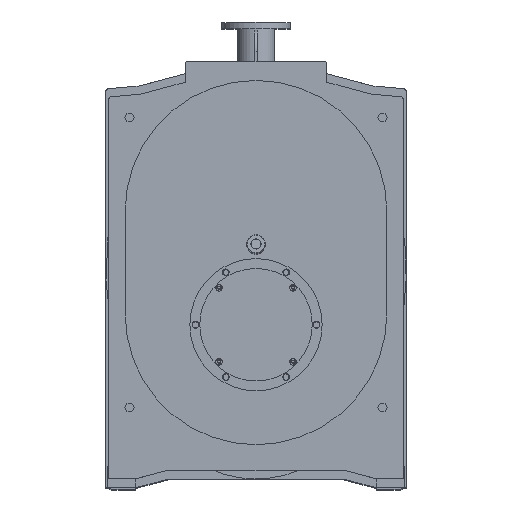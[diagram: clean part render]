
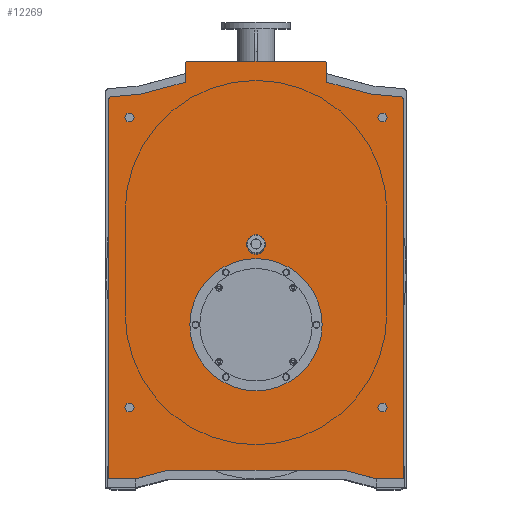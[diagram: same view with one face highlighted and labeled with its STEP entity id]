
A CAD part, top view. The second image highlights one B-rep face of the part: STEP entity #12269.
In plain terms, the highlighted planar face has unit normal (0, 0, 1).
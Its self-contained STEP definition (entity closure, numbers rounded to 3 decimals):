
#54 = EDGE_CURVE ( 'NONE', #11952, #89, #7925, .T. ) ;
#89 = VERTEX_POINT ( 'NONE', #1479 ) ;
#93 = ORIENTED_EDGE ( 'NONE', *, *, #4936, .T. ) ;
#162 = VECTOR ( 'NONE', #4175, 1000. ) ;
#182 = CARTESIAN_POINT ( 'NONE',  ( 252., 861.942, 1979. ) ) ;
#212 = CARTESIAN_POINT ( 'NONE',  ( 410.397, 819.499, 1979. ) ) ;
#223 = VECTOR ( 'NONE', #1518, 1000. ) ;
#512 = ORIENTED_EDGE ( 'NONE', *, *, #9629, .T. ) ;
#580 = VECTOR ( 'NONE', #12216, 1000. ) ;
#633 = ORIENTED_EDGE ( 'NONE', *, *, #6002, .T. ) ;
#776 = CARTESIAN_POINT ( 'NONE',  ( -513.636, 800.429, 1979. ) ) ;
#934 = VERTEX_POINT ( 'NONE', #3994 ) ;
#958 = EDGE_CURVE ( 'NONE', #6484, #6531, #10814, .T. ) ;
#1231 = CARTESIAN_POINT ( 'NONE',  ( 252., 861.942, 1979. ) ) ;
#1407 = VERTEX_POINT ( 'NONE', #9219 ) ;
#1422 = EDGE_CURVE ( 'NONE', #934, #5270, #3254, .T. ) ;
#1479 = CARTESIAN_POINT ( 'NONE',  ( -523.636, -548., 1979. ) ) ;
#1518 = DIRECTION ( 'NONE',  ( 0., -1., 0. ) ) ;
#1525 = VERTEX_POINT ( 'NONE', #4371 ) ;
#1734 = ORIENTED_EDGE ( 'NONE', *, *, #5578, .T. ) ;
#1794 = CARTESIAN_POINT ( 'NONE',  ( -514.508, 810.391, 1979. ) ) ;
#1895 = EDGE_CURVE ( 'NONE', #6464, #2004, #5608, .T. ) ;
#1975 = DIRECTION ( 'NONE',  ( -0.966, -0.259, 0. ) ) ;
#2004 = VERTEX_POINT ( 'NONE', #10166 ) ;
#2011 = CARTESIAN_POINT ( 'NONE',  ( 317.304, -518., 1979. ) ) ;
#2065 = ORIENTED_EDGE ( 'NONE', *, *, #6716, .T. ) ;
#2329 = CARTESIAN_POINT ( 'NONE',  ( -427.586, -548., 1979. ) ) ;
#2389 = ORIENTED_EDGE ( 'NONE', *, *, #12493, .T. ) ;
#2532 = LINE ( 'NONE', #7598, #7546 ) ;
#2533 = VERTEX_POINT ( 'NONE', #10067 ) ;
#2548 = CARTESIAN_POINT ( 'NONE',  ( -242., 927., 1979. ) ) ;
#2583 = EDGE_CURVE ( 'NONE', #12469, #7035, #12665, .T. ) ;
#2644 = VECTOR ( 'NONE', #11011, 1000. ) ;
#2851 = LINE ( 'NONE', #182, #162 ) ;
#3002 = ORIENTED_EDGE ( 'NONE', *, *, #6782, .T. ) ;
#3048 = CARTESIAN_POINT ( 'NONE',  ( 513.636, 800.429, 1979. ) ) ;
#3088 = DIRECTION ( 'NONE',  ( 0., 0., 1. ) ) ;
#3142 = EDGE_CURVE ( 'NONE', #9934, #934, #4763, .T. ) ;
#3253 = CARTESIAN_POINT ( 'NONE',  ( 523.636, 800.429, 1979. ) ) ;
#3254 = LINE ( 'NONE', #212, #580 ) ;
#3399 = ORIENTED_EDGE ( 'NONE', *, *, #9994, .T. ) ;
#3430 = DIRECTION ( 'NONE',  ( -1., 0., 0. ) ) ;
#3472 = ORIENTED_EDGE ( 'NONE', *, *, #54, .T. ) ;
#3642 = LINE ( 'NONE', #2329, #8647 ) ;
#3901 = ORIENTED_EDGE ( 'NONE', *, *, #12691, .T. ) ;
#3942 = DIRECTION ( 'NONE',  ( 0., 0., 1. ) ) ;
#3949 = CARTESIAN_POINT ( 'NONE',  ( 523.636, -548., 1979. ) ) ;
#3961 = CARTESIAN_POINT ( 'NONE',  ( -242., 937., 1979. ) ) ;
#3994 = CARTESIAN_POINT ( 'NONE',  ( 410.397, 819.499, 1979. ) ) ;
#4019 = DIRECTION ( 'NONE',  ( 0.965, 0.262, 0. ) ) ;
#4175 = DIRECTION ( 'NONE',  ( 0., 1., 0. ) ) ;
#4183 = LINE ( 'NONE', #3961, #11898 ) ;
#4260 = ORIENTED_EDGE ( 'NONE', *, *, #958, .T. ) ;
#4270 = DIRECTION ( 'NONE',  ( 1., 0., 0. ) ) ;
#4282 = CARTESIAN_POINT ( 'NONE',  ( 514.508, 810.391, 1979. ) ) ;
#4321 = AXIS2_PLACEMENT_3D ( 'NONE', #776, #11207, #4519 ) ;
#4371 = CARTESIAN_POINT ( 'NONE',  ( -427.586, -548., 1979. ) ) ;
#4450 = VECTOR ( 'NONE', #6242, 1000. ) ;
#4519 = DIRECTION ( 'NONE',  ( -1., 0., 0. ) ) ;
#4560 = CARTESIAN_POINT ( 'NONE',  ( 242., 937., 1979. ) ) ;
#4681 = ORIENTED_EDGE ( 'NONE', *, *, #3142, .T. ) ;
#4763 = LINE ( 'NONE', #8447, #4450 ) ;
#4914 = CARTESIAN_POINT ( 'NONE',  ( -410.397, 819.499, 1979. ) ) ;
#4936 = EDGE_CURVE ( 'NONE', #6531, #9934, #11669, .T. ) ;
#5136 = VECTOR ( 'NONE', #6793, 1000. ) ;
#5270 = VERTEX_POINT ( 'NONE', #1231 ) ;
#5425 = AXIS2_PLACEMENT_3D ( 'NONE', #11704, #5685, #12725 ) ;
#5533 = VERTEX_POINT ( 'NONE', #6683 ) ;
#5578 = EDGE_CURVE ( 'NONE', #89, #1525, #3642, .T. ) ;
#5608 = LINE ( 'NONE', #2011, #2644 ) ;
#5685 = DIRECTION ( 'NONE',  ( 0., 0., 1. ) ) ;
#5814 = EDGE_CURVE ( 'NONE', #1525, #2533, #2532, .T. ) ;
#5862 = CARTESIAN_POINT ( 'NONE',  ( -252., 861.942, 1979. ) ) ;
#5931 = CIRCLE ( 'NONE', #7159, 10. ) ;
#6002 = EDGE_CURVE ( 'NONE', #7035, #10326, #7390, .T. ) ;
#6126 = DIRECTION ( 'NONE',  ( 1., 0., 0. ) ) ;
#6242 = DIRECTION ( 'NONE',  ( -0.996, 0.087, 0. ) ) ;
#6326 = DIRECTION ( 'NONE',  ( 0., 0., 1. ) ) ;
#6427 = VECTOR ( 'NONE', #7803, 1000. ) ;
#6437 = CARTESIAN_POINT ( 'NONE',  ( -252., 861.942, 1979. ) ) ;
#6464 = VERTEX_POINT ( 'NONE', #7600 ) ;
#6484 = VERTEX_POINT ( 'NONE', #8604 ) ;
#6531 = VERTEX_POINT ( 'NONE', #3253 ) ;
#6577 = LINE ( 'NONE', #4914, #9254 ) ;
#6635 = PLANE ( 'NONE',  #4321 ) ;
#6683 = CARTESIAN_POINT ( 'NONE',  ( -410.397, 819.499, 1979. ) ) ;
#6716 = EDGE_CURVE ( 'NONE', #5533, #6987, #9111, .T. ) ;
#6782 = EDGE_CURVE ( 'NONE', #2533, #6464, #8797, .T. ) ;
#6793 = DIRECTION ( 'NONE',  ( 0., 1., 0. ) ) ;
#6987 = VERTEX_POINT ( 'NONE', #7579 ) ;
#7035 = VERTEX_POINT ( 'NONE', #8691 ) ;
#7079 = DIRECTION ( 'NONE',  ( 1., 0., 0. ) ) ;
#7111 = ORIENTED_EDGE ( 'NONE', *, *, #1422, .T. ) ;
#7159 = AXIS2_PLACEMENT_3D ( 'NONE', #11888, #6326, #7289 ) ;
#7252 = LINE ( 'NONE', #7815, #12297 ) ;
#7289 = DIRECTION ( 'NONE',  ( -1., 0., 0. ) ) ;
#7390 = LINE ( 'NONE', #5862, #10049 ) ;
#7496 = ORIENTED_EDGE ( 'NONE', *, *, #2583, .T. ) ;
#7546 = VECTOR ( 'NONE', #4019, 1000. ) ;
#7579 = CARTESIAN_POINT ( 'NONE',  ( -514.508, 810.391, 1979. ) ) ;
#7598 = CARTESIAN_POINT ( 'NONE',  ( -317.304, -518., 1979. ) ) ;
#7600 = CARTESIAN_POINT ( 'NONE',  ( 317.304, -518., 1979. ) ) ;
#7803 = DIRECTION ( 'NONE',  ( -0.996, -0.087, 0. ) ) ;
#7815 = CARTESIAN_POINT ( 'NONE',  ( 427.586, -548., 1979. ) ) ;
#7925 = LINE ( 'NONE', #8538, #223 ) ;
#7940 = EDGE_LOOP ( 'NONE', ( #1734, #9147, #3002, #9680, #12165, #4260, #93, #4681, #7111, #3901, #2389, #8448, #7496, #633, #512, #2065, #3399, #3472 ) ) ;
#8447 = CARTESIAN_POINT ( 'NONE',  ( 514.508, 810.391, 1979. ) ) ;
#8448 = ORIENTED_EDGE ( 'NONE', *, *, #10312, .T. ) ;
#8538 = CARTESIAN_POINT ( 'NONE',  ( -523.636, -548., 1979. ) ) ;
#8604 = CARTESIAN_POINT ( 'NONE',  ( 523.636, -548., 1979. ) ) ;
#8647 = VECTOR ( 'NONE', #9314, 1000. ) ;
#8691 = CARTESIAN_POINT ( 'NONE',  ( -252., 927., 1979. ) ) ;
#8797 = LINE ( 'NONE', #10123, #11155 ) ;
#8836 = FACE_OUTER_BOUND ( 'NONE', #7940, .T. ) ;
#9111 = LINE ( 'NONE', #1794, #6427 ) ;
#9147 = ORIENTED_EDGE ( 'NONE', *, *, #5814, .T. ) ;
#9219 = CARTESIAN_POINT ( 'NONE',  ( 252., 927., 1979. ) ) ;
#9254 = VECTOR ( 'NONE', #1975, 1000. ) ;
#9314 = DIRECTION ( 'NONE',  ( 1., 0., 0. ) ) ;
#9629 = EDGE_CURVE ( 'NONE', #10326, #5533, #6577, .T. ) ;
#9680 = ORIENTED_EDGE ( 'NONE', *, *, #1895, .T. ) ;
#9777 = VERTEX_POINT ( 'NONE', #4560 ) ;
#9902 = CARTESIAN_POINT ( 'NONE',  ( -242., 937., 1979. ) ) ;
#9934 = VERTEX_POINT ( 'NONE', #4282 ) ;
#9951 = DIRECTION ( 'NONE',  ( -1., 0., 0. ) ) ;
#9994 = EDGE_CURVE ( 'NONE', #6987, #11952, #5931, .T. ) ;
#10049 = VECTOR ( 'NONE', #11519, 1000. ) ;
#10067 = CARTESIAN_POINT ( 'NONE',  ( -317.304, -518., 1979. ) ) ;
#10123 = CARTESIAN_POINT ( 'NONE',  ( 317.304, -518., 1979. ) ) ;
#10139 = CARTESIAN_POINT ( 'NONE',  ( -523.636, 800.429, 1979. ) ) ;
#10166 = CARTESIAN_POINT ( 'NONE',  ( 427.586, -548., 1979. ) ) ;
#10312 = EDGE_CURVE ( 'NONE', #9777, #12469, #4183, .T. ) ;
#10326 = VERTEX_POINT ( 'NONE', #6437 ) ;
#10663 = AXIS2_PLACEMENT_3D ( 'NONE', #3048, #3088, #7079 ) ;
#10814 = LINE ( 'NONE', #3949, #5136 ) ;
#11011 = DIRECTION ( 'NONE',  ( 0.965, -0.262, 0. ) ) ;
#11155 = VECTOR ( 'NONE', #6126, 1000. ) ;
#11207 = DIRECTION ( 'NONE',  ( 0., 0., -1. ) ) ;
#11358 = CIRCLE ( 'NONE', #5425, 10. ) ;
#11519 = DIRECTION ( 'NONE',  ( 0., -1., 0. ) ) ;
#11669 = CIRCLE ( 'NONE', #10663, 10. ) ;
#11704 = CARTESIAN_POINT ( 'NONE',  ( 242., 927., 1979. ) ) ;
#11866 = EDGE_CURVE ( 'NONE', #2004, #6484, #7252, .T. ) ;
#11888 = CARTESIAN_POINT ( 'NONE',  ( -513.636, 800.429, 1979. ) ) ;
#11898 = VECTOR ( 'NONE', #3430, 1000. ) ;
#11952 = VERTEX_POINT ( 'NONE', #10139 ) ;
#12039 = AXIS2_PLACEMENT_3D ( 'NONE', #2548, #3942, #9951 ) ;
#12165 = ORIENTED_EDGE ( 'NONE', *, *, #11866, .T. ) ;
#12216 = DIRECTION ( 'NONE',  ( -0.966, 0.259, 0. ) ) ;
#12269 = ADVANCED_FACE ( 'NONE', ( #8836 ), #6635, .F. ) ;
#12297 = VECTOR ( 'NONE', #4270, 1000. ) ;
#12469 = VERTEX_POINT ( 'NONE', #9902 ) ;
#12493 = EDGE_CURVE ( 'NONE', #1407, #9777, #11358, .T. ) ;
#12665 = CIRCLE ( 'NONE', #12039, 10. ) ;
#12691 = EDGE_CURVE ( 'NONE', #5270, #1407, #2851, .T. ) ;
#12725 = DIRECTION ( 'NONE',  ( 1., 0., 0. ) ) ;
